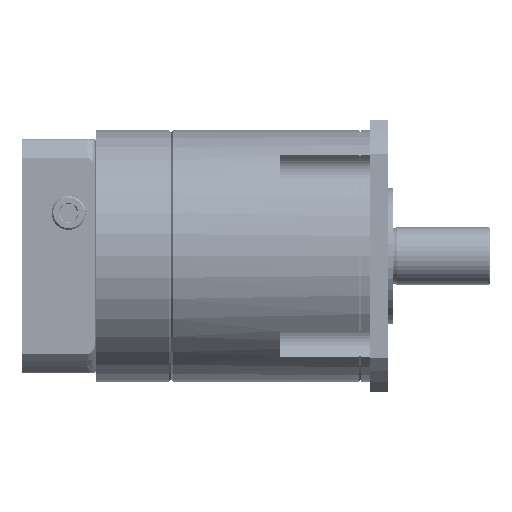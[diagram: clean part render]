
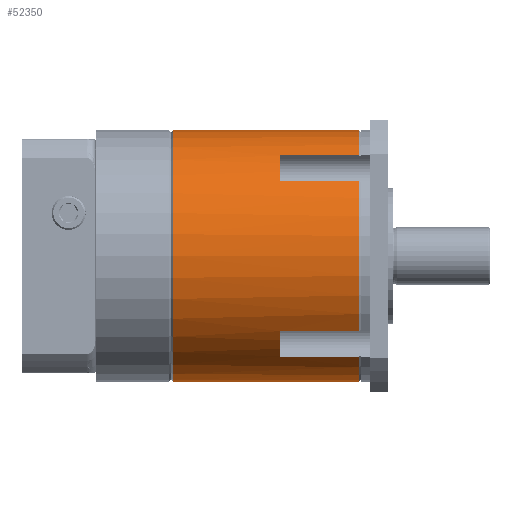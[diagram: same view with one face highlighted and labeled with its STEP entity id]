
A CAD part, front view. The second image highlights one B-rep face of the part: STEP entity #52350.
In plain terms, the highlighted cylindrical face has radius 35 mm (diameter 70 mm), a partial arc.
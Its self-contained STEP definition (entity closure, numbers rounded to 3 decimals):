
#2262 = CIRCLE ( 'NONE', #101389, 35. ) ;
#2590 = DIRECTION ( 'NONE',  ( 1., 0., 0. ) ) ;
#3777 = ORIENTED_EDGE ( 'NONE', *, *, #103968, .F. ) ;
#6354 = AXIS2_PLACEMENT_3D ( 'NONE', #124034, #2590, #56611 ) ;
#7184 = CARTESIAN_POINT ( 'NONE',  ( -59.556, -20.959, -28.03 ) ) ;
#7458 = DIRECTION ( 'NONE',  ( 0., 0., -1. ) ) ;
#7872 = VERTEX_POINT ( 'NONE', #12063 ) ;
#7965 = AXIS2_PLACEMENT_3D ( 'NONE', #100999, #155096, #33538 ) ;
#8271 = CIRCLE ( 'NONE', #107357, 35. ) ;
#9534 = CARTESIAN_POINT ( 'NONE',  ( -0.5, -28.03, -20.959 ) ) ;
#10210 = CARTESIAN_POINT ( 'NONE',  ( -59.556, -28.03, -20.959 ) ) ;
#10564 = EDGE_CURVE ( 'NONE', #90846, #69503, #117378, .T. ) ;
#10717 = ORIENTED_EDGE ( 'NONE', *, *, #77233, .T. ) ;
#12063 = CARTESIAN_POINT ( 'NONE',  ( -22.5, -20.959, 28.03 ) ) ;
#12875 = VECTOR ( 'NONE', #166875, 1000. ) ;
#17838 = LINE ( 'NONE', #112695, #12875 ) ;
#18306 = CARTESIAN_POINT ( 'NONE',  ( -59.556, 0., 0. ) ) ;
#19011 = CARTESIAN_POINT ( 'NONE',  ( -59.556, 0., -35. ) ) ;
#20970 = AXIS2_PLACEMENT_3D ( 'NONE', #18306, #72349, #126500 ) ;
#25853 = ORIENTED_EDGE ( 'NONE', *, *, #115604, .T. ) ;
#25921 = CARTESIAN_POINT ( 'NONE',  ( -22.5, -28.03, 20.959 ) ) ;
#28708 = CARTESIAN_POINT ( 'NONE',  ( -59.556, -28.03, 20.959 ) ) ;
#33538 = DIRECTION ( 'NONE',  ( 0., 0., 1. ) ) ;
#33783 = CIRCLE ( 'NONE', #133014, 35. ) ;
#35044 = ORIENTED_EDGE ( 'NONE', *, *, #10564, .T. ) ;
#35229 = EDGE_CURVE ( 'NONE', #84821, #125410, #131669, .T. ) ;
#39951 = CARTESIAN_POINT ( 'NONE',  ( -59.556, 0., 35. ) ) ;
#40821 = AXIS2_PLACEMENT_3D ( 'NONE', #112684, #166863, #45257 ) ;
#44010 = CYLINDRICAL_SURFACE ( 'NONE', #20970, 35. ) ;
#45257 = DIRECTION ( 'NONE',  ( 0., 0., 1. ) ) ;
#45351 = CARTESIAN_POINT ( 'NONE',  ( -22.5, -28.03, -20.959 ) ) ;
#46424 = VECTOR ( 'NONE', #64196, 1000. ) ;
#47414 = CARTESIAN_POINT ( 'NONE',  ( -52.5, 0., 35. ) ) ;
#48570 = EDGE_CURVE ( 'NONE', #69503, #51717, #161545, .T. ) ;
#51717 = VERTEX_POINT ( 'NONE', #47414 ) ;
#52350 = ADVANCED_FACE ( 'NONE', ( #165616 ), #44010, .T. ) ;
#53305 = DIRECTION ( 'NONE',  ( 0., 0., -1. ) ) ;
#56133 = CARTESIAN_POINT ( 'NONE',  ( -22.5, -20.959, -28.03 ) ) ;
#56611 = DIRECTION ( 'NONE',  ( 0., 0., -1. ) ) ;
#58486 = CARTESIAN_POINT ( 'NONE',  ( -0.5, -28.03, 20.959 ) ) ;
#58504 = CARTESIAN_POINT ( 'NONE',  ( -0.5, -20.959, 28.03 ) ) ;
#58650 = ORIENTED_EDGE ( 'NONE', *, *, #88955, .T. ) ;
#61156 = DIRECTION ( 'NONE',  ( -1., 0., 0. ) ) ;
#61646 = CIRCLE ( 'NONE', #7965, 35. ) ;
#62278 = CARTESIAN_POINT ( 'NONE',  ( -0.5, 0., 0. ) ) ;
#64196 = DIRECTION ( 'NONE',  ( 1., 0., 0. ) ) ;
#64261 = EDGE_LOOP ( 'NONE', ( #126815, #77036, #68816, #146409, #134963, #25853, #58650, #3777, #10717, #35044, #114165, #95796 ) ) ;
#67454 = VERTEX_POINT ( 'NONE', #58486 ) ;
#68816 = ORIENTED_EDGE ( 'NONE', *, *, #166994, .T. ) ;
#69503 = VERTEX_POINT ( 'NONE', #128257 ) ;
#70672 = EDGE_CURVE ( 'NONE', #116036, #174001, #140515, .T. ) ;
#72349 = DIRECTION ( 'NONE',  ( -1., 0., 0. ) ) ;
#73041 = DIRECTION ( 'NONE',  ( -1., 0., 0. ) ) ;
#74356 = VECTOR ( 'NONE', #73041, 1000. ) ;
#74733 = CARTESIAN_POINT ( 'NONE',  ( -52.5, 0., 0. ) ) ;
#77036 = ORIENTED_EDGE ( 'NONE', *, *, #83339, .T. ) ;
#77233 = EDGE_CURVE ( 'NONE', #7872, #90846, #17838, .T. ) ;
#82704 = CIRCLE ( 'NONE', #6354, 35. ) ;
#82823 = DIRECTION ( 'NONE',  ( -1., 0., 0. ) ) ;
#83339 = EDGE_CURVE ( 'NONE', #116036, #105953, #33783, .T. ) ;
#84821 = VERTEX_POINT ( 'NONE', #45351 ) ;
#88955 = EDGE_CURVE ( 'NONE', #67454, #147563, #150266, .T. ) ;
#90846 = VERTEX_POINT ( 'NONE', #58504 ) ;
#94094 = DIRECTION ( 'NONE',  ( -1., 0., 0. ) ) ;
#95796 = ORIENTED_EDGE ( 'NONE', *, *, #147486, .T. ) ;
#96635 = CARTESIAN_POINT ( 'NONE',  ( -0.5, -20.959, -28.03 ) ) ;
#97936 = CARTESIAN_POINT ( 'NONE',  ( -0.5, 0., -35. ) ) ;
#100999 = CARTESIAN_POINT ( 'NONE',  ( -0.5, 0., 0. ) ) ;
#101389 = AXIS2_PLACEMENT_3D ( 'NONE', #120774, #174899, #53305 ) ;
#103739 = VERTEX_POINT ( 'NONE', #56133 ) ;
#103968 = EDGE_CURVE ( 'NONE', #7872, #147563, #2262, .T. ) ;
#105953 = VERTEX_POINT ( 'NONE', #96635 ) ;
#107357 = AXIS2_PLACEMENT_3D ( 'NONE', #74733, #128894, #7458 ) ;
#109537 = EDGE_CURVE ( 'NONE', #84821, #103739, #82704, .T. ) ;
#112684 = CARTESIAN_POINT ( 'NONE',  ( -0.5, 0., 0. ) ) ;
#112695 = CARTESIAN_POINT ( 'NONE',  ( -59.556, -20.959, 28.03 ) ) ;
#114165 = ORIENTED_EDGE ( 'NONE', *, *, #48570, .T. ) ;
#115604 = EDGE_CURVE ( 'NONE', #125410, #67454, #61646, .T. ) ;
#116036 = VERTEX_POINT ( 'NONE', #97936 ) ;
#116438 = DIRECTION ( 'NONE',  ( -1., 0., 0. ) ) ;
#117378 = CIRCLE ( 'NONE', #40821, 35. ) ;
#120774 = CARTESIAN_POINT ( 'NONE',  ( -22.5, 0., 0. ) ) ;
#124034 = CARTESIAN_POINT ( 'NONE',  ( -22.5, 0., 0. ) ) ;
#125410 = VERTEX_POINT ( 'NONE', #9534 ) ;
#126500 = DIRECTION ( 'NONE',  ( 0., 0., 1. ) ) ;
#126815 = ORIENTED_EDGE ( 'NONE', *, *, #70672, .F. ) ;
#128257 = CARTESIAN_POINT ( 'NONE',  ( -0.5, 0., 35. ) ) ;
#128612 = LINE ( 'NONE', #7184, #152502 ) ;
#128894 = DIRECTION ( 'NONE',  ( 1., 0., 0. ) ) ;
#131669 = LINE ( 'NONE', #10210, #46424 ) ;
#133014 = AXIS2_PLACEMENT_3D ( 'NONE', #62278, #116438, #170586 ) ;
#133056 = VECTOR ( 'NONE', #82823, 1000. ) ;
#134963 = ORIENTED_EDGE ( 'NONE', *, *, #35229, .T. ) ;
#140515 = LINE ( 'NONE', #19011, #74356 ) ;
#146409 = ORIENTED_EDGE ( 'NONE', *, *, #109537, .F. ) ;
#147486 = EDGE_CURVE ( 'NONE', #51717, #174001, #8271, .T. ) ;
#147563 = VERTEX_POINT ( 'NONE', #25921 ) ;
#150266 = LINE ( 'NONE', #28708, #133056 ) ;
#152502 = VECTOR ( 'NONE', #61156, 1000. ) ;
#155096 = DIRECTION ( 'NONE',  ( -1., 0., 0. ) ) ;
#161545 = LINE ( 'NONE', #39951, #162892 ) ;
#162892 = VECTOR ( 'NONE', #94094, 1000. ) ;
#165616 = FACE_OUTER_BOUND ( 'NONE', #64261, .T. ) ;
#166863 = DIRECTION ( 'NONE',  ( -1., 0., 0. ) ) ;
#166875 = DIRECTION ( 'NONE',  ( 1., 0., 0. ) ) ;
#166994 = EDGE_CURVE ( 'NONE', #105953, #103739, #128612, .T. ) ;
#170586 = DIRECTION ( 'NONE',  ( 0., 0., 1. ) ) ;
#171427 = CARTESIAN_POINT ( 'NONE',  ( -52.5, 0., -35. ) ) ;
#174001 = VERTEX_POINT ( 'NONE', #171427 ) ;
#174899 = DIRECTION ( 'NONE',  ( 1., 0., 0. ) ) ;
